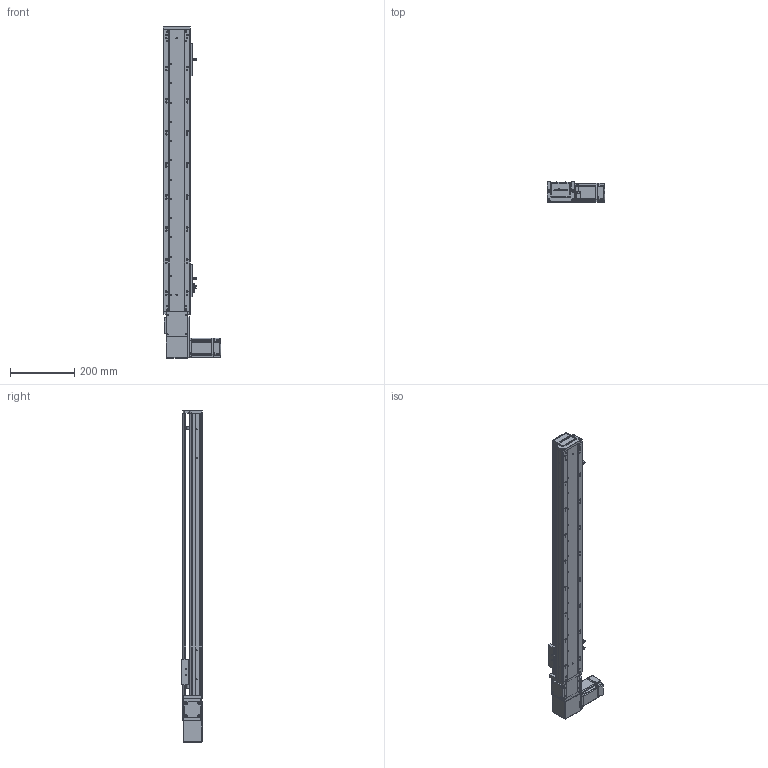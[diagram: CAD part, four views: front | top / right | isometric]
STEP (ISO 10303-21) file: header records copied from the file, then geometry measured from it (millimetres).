
FILE_DESCRIPTION (( 'STEP AP203' ), '1' );
FILE_NAME ('RY80-T-300-RK.SLDASM_700.step', '2021-03-01T02:06:53', ( '盈信电脑' ), ( '东莞市道滘镇水果街19号' ), 'SwSTEP 2.0', 'SolidWorks 2012', '' );
FILE_SCHEMA (( 'CONFIG_CONTROL_DESIGN' ));
Length unit declared in the file: millimetre
Products named in the file (20): RY100-T粣創揤踡裔; RY80-T-300-RK.SLDASM_700; RY80-T肮祭謫俋欶; RY80-T翋肮祭謫裔啣; 滅袉蝶18-10; RY80-T粣創揤踡輸; RY80-T肮祭湍揤輸1; RY80-T-M4蹟翐; RY80-T肮祭湍揤輸2; RY80-T萇儂假蚾啣; 1; 侂狟200W萇儂; RY80-T-翋肮祭謫釱; RY80-T綴裔啣; RY80俋离覜茼え; 覜茼ん672; 672嫖萇羲壽假蚾釱; RY80-T-300-RK倰第奻裔啣_700; RY80-T-300-RK倰第菁釱_700; RY80-T肮祭謫臏賑輸
Assembly tree (25 placements, depth 3):
  RY80-T-300-RK.SLDASM_700
    RY80-T-300-RK倰第菁釱_700
    RY80-T肮祭謫臏賑輸
    RY80-T-300-RK倰第奻裔啣_700
    RY80-T綴裔啣
    672嫖萇羲壽假蚾釱  x2
    覜茼ん672  x3
    RY80俋离覜茼え
    侂狟200W萇儂
      1
    RY80-T-翋肮祭謫釱
    RY80-T萇儂假蚾啣
    RY80-T肮祭湍揤輸1
    RY80-T肮祭湍揤輸2
    RY80-T粣創揤踡輸
    RY80-T-M4蹟翐  x2
    RY80-T翋肮祭謫裔啣  x2
    RY80-T肮祭謫俋欶
    滅袉蝶18-10  x2
    RY100-T粣創揤踡裔
Bounding box: 180 x 65 x 1035 mm (x, y, z)
Volume: 1800270.7 mm3; surface area: 741942.2 mm2
Topology: 24 solids, 24 shells, 2554 faces, 7053 edges, 4585 vertices
Faces by surface type: plane 1350, cylinder 998, cone 150, bspline 56
Entity records: 81068 total; most frequent: CARTESIAN_POINT 20089, ORIENTED_EDGE 12550, DIRECTION 11720, EDGE_CURVE 6275, VERTEX_POINT 4126, AXIS2_PLACEMENT_3D 3961, LINE 3798, VECTOR 3798
